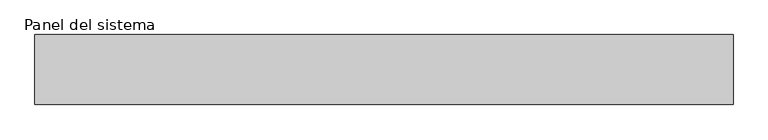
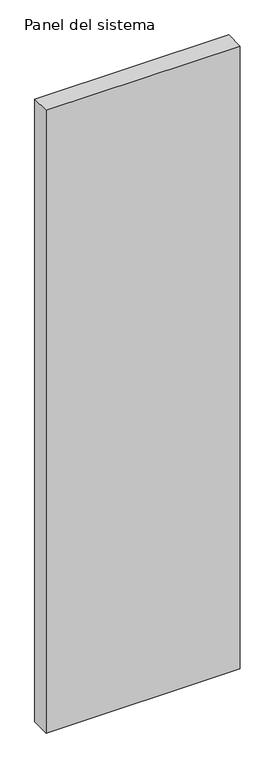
"""IFC4 building model written with IfcOpenShell, lengths in millimetres: plate geometry, Panel del sistema : HIANSA PANEL - PANELES DE CUBIERTA CON TAPAJUNTA - CUB 3GR - Esp. 100mm."""

from ifc_helpers import new_model, si_unit, origin, origin_with_axes, place, context, project, spatial, polyline, outline, extrude, source, transform, mapped, element, save


def panel_del_sistema_bfc47aa1(model_context):
    return source(origin(), model_context, "Body", "SweptSolid", [
        extrude(outline(polyline([(500.0000002, 0.0), (-500.0000002, 0.0), (-500.0000002, 100.0), (500.0000002, 100.0), (500.0000002, 0.0)])), origin_with_axes(), (0.0, 0.0, 1.0), 3390.8509027),
    ])


if __name__ == "__main__":
    model = new_model("IFC4")
    model_context = context("Model", 3, world=origin())
    ifc_project = project(units=[si_unit("LENGTHUNIT", "METRE", prefix="MILLI")], contexts=[model_context])
    site = spatial("IfcSite", under=ifc_project)
    building = spatial("IfcBuilding", under=site)
    placement = place(None, origin())
    panel_del_sistema_shape = panel_del_sistema_bfc47aa1(model_context)
    element("IfcPlate", 1, ObjectType="Panel del sistema : HIANSA PANEL - PANELES DE CUBIERTA CON TAPAJUNTA - CUB 3GR - Esp. 100mm", at=placement, inside=building, context=model_context, shape_type="MappedRepresentation", body=[
        mapped(panel_del_sistema_shape, transform((0.0, 0.0, 0.0), x_axis=(1.0, 0.0, 0.0), y_axis=(0.0, 1.0, 0.0), z_axis=(0.0, 0.0, 1.0))),
    ])
    save(model, "model.ifc")
